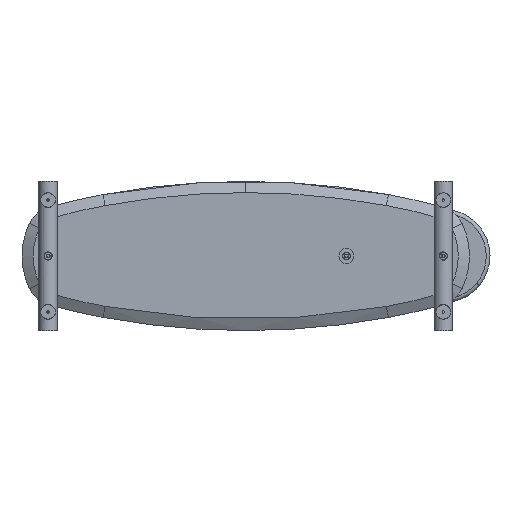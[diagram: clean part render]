
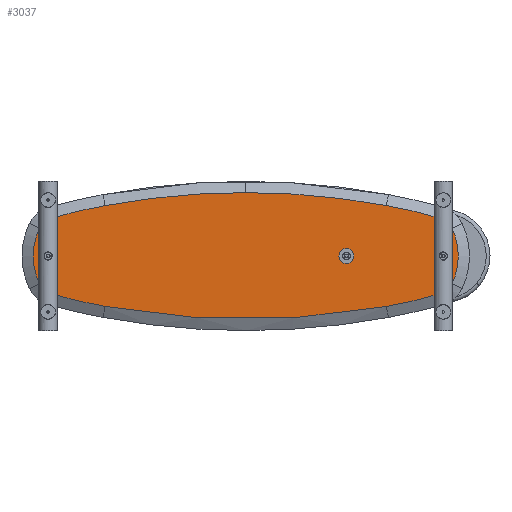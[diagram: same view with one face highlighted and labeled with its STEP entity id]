
A CAD part, front view. The second image highlights one B-rep face of the part: STEP entity #3037.
In plain terms, the highlighted planar face has unit normal (0, -1, 0).
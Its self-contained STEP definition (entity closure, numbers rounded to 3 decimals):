
#147 = EDGE_CURVE ( 'NONE', #2746, #4618, #3333, .T. ) ;
#236 = CIRCLE ( 'NONE', #2231, 50. ) ;
#301 = CARTESIAN_POINT ( 'NONE',  ( 46.866, 0., -74.596 ) ) ;
#343 = CIRCLE ( 'NONE', #3967, 2061.775 ) ;
#505 = AXIS2_PLACEMENT_3D ( 'NONE', #3856, #8598, #6351 ) ;
#520 = VERTEX_POINT ( 'NONE', #4761 ) ;
#697 = CIRCLE ( 'NONE', #1314, 50. ) ;
#717 = ORIENTED_EDGE ( 'NONE', *, *, #6846, .T. ) ;
#835 = DIRECTION ( 'NONE',  ( 0., 0., 1. ) ) ;
#987 = DIRECTION ( 'NONE',  ( 0., 0., 1. ) ) ;
#992 = EDGE_CURVE ( 'NONE', #8031, #6002, #3451, .T. ) ;
#1018 = VERTEX_POINT ( 'NONE', #1585 ) ;
#1198 = DIRECTION ( 'NONE',  ( 0., 0., 1. ) ) ;
#1237 = VERTEX_POINT ( 'NONE', #9211 ) ;
#1314 = AXIS2_PLACEMENT_3D ( 'NONE', #8226, #9116, #987 ) ;
#1425 = EDGE_CURVE ( 'NONE', #520, #6867, #343, .T. ) ;
#1484 = DIRECTION ( 'NONE',  ( 0., -1., 0. ) ) ;
#1585 = CARTESIAN_POINT ( 'NONE',  ( 78.251, 0., -101.157 ) ) ;
#1618 = CARTESIAN_POINT ( 'NONE',  ( 46.866, 0., 74.596 ) ) ;
#1796 = CIRCLE ( 'NONE', #9862, 2061.775 ) ;
#1939 = AXIS2_PLACEMENT_3D ( 'NONE', #8640, #1484, #7925 ) ;
#2020 = DIRECTION ( 'NONE',  ( 0., -1., 0. ) ) ;
#2062 = DIRECTION ( 'NONE',  ( 0., -1., 0. ) ) ;
#2110 = AXIS2_PLACEMENT_3D ( 'NONE', #7962, #7141, #3247 ) ;
#2231 = AXIS2_PLACEMENT_3D ( 'NONE', #2705, #2742, #9065 ) ;
#2447 = ORIENTED_EDGE ( 'NONE', *, *, #6027, .T. ) ;
#2637 = DIRECTION ( 'NONE',  ( 0., -1., 0. ) ) ;
#2705 = CARTESIAN_POINT ( 'NONE',  ( 92.003, 0., 53.085 ) ) ;
#2742 = DIRECTION ( 'NONE',  ( 0., -1., 0. ) ) ;
#2746 = VERTEX_POINT ( 'NONE', #1618 ) ;
#2800 = CIRCLE ( 'NONE', #3646, 1570. ) ;
#2849 = CIRCLE ( 'NONE', #9848, 1570. ) ;
#2968 = ORIENTED_EDGE ( 'NONE', *, *, #3312, .T. ) ;
#3037 = ADVANCED_FACE ( 'NONE', ( #9827 ), #7753, .F. ) ;
#3247 = DIRECTION ( 'NONE',  ( 0., 0., 1. ) ) ;
#3248 = VERTEX_POINT ( 'NONE', #8692 ) ;
#3312 = EDGE_CURVE ( 'NONE', #8131, #1237, #2849, .T. ) ;
#3321 = AXIS2_PLACEMENT_3D ( 'NONE', #7416, #2637, #6641 ) ;
#3333 = CIRCLE ( 'NONE', #505, 173.394 ) ;
#3451 = CIRCLE ( 'NONE', #9190, 50. ) ;
#3646 = AXIS2_PLACEMENT_3D ( 'NONE', #8441, #5969, #1198 ) ;
#3745 = ORIENTED_EDGE ( 'NONE', *, *, #1425, .T. ) ;
#3856 = CARTESIAN_POINT ( 'NONE',  ( 203.394, 0., 0. ) ) ;
#3967 = AXIS2_PLACEMENT_3D ( 'NONE', #4114, #4160, #9723 ) ;
#3969 = ORIENTED_EDGE ( 'NONE', *, *, #5871, .T. ) ;
#4010 = AXIS2_PLACEMENT_3D ( 'NONE', #6872, #2062, #9230 ) ;
#4085 = EDGE_CURVE ( 'NONE', #10116, #3248, #697, .T. ) ;
#4114 = CARTESIAN_POINT ( 'NONE',  ( 600., 0., 1891.775 ) ) ;
#4160 = DIRECTION ( 'NONE',  ( 0., -1., 0. ) ) ;
#4174 = DIRECTION ( 'NONE',  ( 0., -1., 0. ) ) ;
#4210 = EDGE_CURVE ( 'NONE', #3248, #8815, #2800, .T. ) ;
#4283 = ORIENTED_EDGE ( 'NONE', *, *, #4085, .T. ) ;
#4309 = CARTESIAN_POINT ( 'NONE',  ( 977.111, 0., 135.219 ) ) ;
#4423 = ORIENTED_EDGE ( 'NONE', *, *, #9364, .T. ) ;
#4474 = EDGE_CURVE ( 'NONE', #1018, #520, #9547, .T. ) ;
#4515 = DIRECTION ( 'NONE',  ( 0., 0., 1. ) ) ;
#4528 = VERTEX_POINT ( 'NONE', #5134 ) ;
#4545 = AXIS2_PLACEMENT_3D ( 'NONE', #8364, #2020, #4515 ) ;
#4618 = VERTEX_POINT ( 'NONE', #301 ) ;
#4761 = CARTESIAN_POINT ( 'NONE',  ( 222.889, 0., -135.219 ) ) ;
#4857 = ORIENTED_EDGE ( 'NONE', *, *, #4474, .T. ) ;
#5134 = CARTESIAN_POINT ( 'NONE',  ( 600., 0., 170. ) ) ;
#5635 = EDGE_LOOP ( 'NONE', ( #6844, #9819, #4423, #4283, #7421, #7216, #717, #2968, #2447, #7854, #3969, #4857, #3745 ) ) ;
#5715 = CARTESIAN_POINT ( 'NONE',  ( 1153.134, 0., 74.596 ) ) ;
#5746 = CIRCLE ( 'NONE', #4010, 1570. ) ;
#5774 = CIRCLE ( 'NONE', #1939, 173.394 ) ;
#5871 = EDGE_CURVE ( 'NONE', #4618, #1018, #7684, .T. ) ;
#5969 = DIRECTION ( 'NONE',  ( 0., -1., 0. ) ) ;
#6002 = VERTEX_POINT ( 'NONE', #8241 ) ;
#6027 = EDGE_CURVE ( 'NONE', #1237, #2746, #236, .T. ) ;
#6041 = AXIS2_PLACEMENT_3D ( 'NONE', #6913, #7049, #6182 ) ;
#6182 = DIRECTION ( 'NONE',  ( 0., 0., 1. ) ) ;
#6264 = CARTESIAN_POINT ( 'NONE',  ( 1107.997, 0., -53.085 ) ) ;
#6351 = DIRECTION ( 'NONE',  ( 0., 0., 1. ) ) ;
#6413 = CIRCLE ( 'NONE', #4545, 2061.775 ) ;
#6641 = DIRECTION ( 'NONE',  ( 0., 0., 1. ) ) ;
#6794 = DIRECTION ( 'NONE',  ( 0., 0., 1. ) ) ;
#6844 = ORIENTED_EDGE ( 'NONE', *, *, #8922, .T. ) ;
#6846 = EDGE_CURVE ( 'NONE', #4528, #8131, #1796, .T. ) ;
#6867 = VERTEX_POINT ( 'NONE', #9927 ) ;
#6872 = CARTESIAN_POINT ( 'NONE',  ( 689.948, 0., 1408.296 ) ) ;
#6913 = CARTESIAN_POINT ( 'NONE',  ( 0., 0., 0. ) ) ;
#6964 = CARTESIAN_POINT ( 'NONE',  ( 1121.749, 0., -101.157 ) ) ;
#6987 = EDGE_CURVE ( 'NONE', #8815, #4528, #6413, .T. ) ;
#7049 = DIRECTION ( 'NONE',  ( 0., 1., 0. ) ) ;
#7141 = DIRECTION ( 'NONE',  ( 0., -1., 0. ) ) ;
#7216 = ORIENTED_EDGE ( 'NONE', *, *, #6987, .T. ) ;
#7401 = DIRECTION ( 'NONE',  ( 0., 0., 1. ) ) ;
#7416 = CARTESIAN_POINT ( 'NONE',  ( 92.003, 0., -53.085 ) ) ;
#7421 = ORIENTED_EDGE ( 'NONE', *, *, #4210, .T. ) ;
#7532 = CARTESIAN_POINT ( 'NONE',  ( 600., 0., -1891.775 ) ) ;
#7670 = DIRECTION ( 'NONE',  ( 0., -1., 0. ) ) ;
#7684 = CIRCLE ( 'NONE', #3321, 50. ) ;
#7753 = PLANE ( 'NONE',  #6041 ) ;
#7767 = CARTESIAN_POINT ( 'NONE',  ( 222.889, 0., 135.219 ) ) ;
#7854 = ORIENTED_EDGE ( 'NONE', *, *, #147, .T. ) ;
#7925 = DIRECTION ( 'NONE',  ( 0., 0., 1. ) ) ;
#7962 = CARTESIAN_POINT ( 'NONE',  ( 510.052, 0., 1408.296 ) ) ;
#8031 = VERTEX_POINT ( 'NONE', #6964 ) ;
#8131 = VERTEX_POINT ( 'NONE', #7767 ) ;
#8226 = CARTESIAN_POINT ( 'NONE',  ( 1107.997, 0., 53.085 ) ) ;
#8241 = CARTESIAN_POINT ( 'NONE',  ( 1153.134, 0., -74.596 ) ) ;
#8364 = CARTESIAN_POINT ( 'NONE',  ( 600., 0., -1891.775 ) ) ;
#8441 = CARTESIAN_POINT ( 'NONE',  ( 689.948, 0., -1408.296 ) ) ;
#8598 = DIRECTION ( 'NONE',  ( 0., -1., 0. ) ) ;
#8640 = CARTESIAN_POINT ( 'NONE',  ( 996.606, 0., 0. ) ) ;
#8692 = CARTESIAN_POINT ( 'NONE',  ( 1121.749, 0., 101.157 ) ) ;
#8815 = VERTEX_POINT ( 'NONE', #4309 ) ;
#8922 = EDGE_CURVE ( 'NONE', #6867, #8031, #5746, .T. ) ;
#9065 = DIRECTION ( 'NONE',  ( 0., 0., 1. ) ) ;
#9116 = DIRECTION ( 'NONE',  ( 0., -1., 0. ) ) ;
#9190 = AXIS2_PLACEMENT_3D ( 'NONE', #6264, #10258, #835 ) ;
#9211 = CARTESIAN_POINT ( 'NONE',  ( 78.251, 0., 101.157 ) ) ;
#9230 = DIRECTION ( 'NONE',  ( 0., 0., 1. ) ) ;
#9364 = EDGE_CURVE ( 'NONE', #6002, #10116, #5774, .T. ) ;
#9547 = CIRCLE ( 'NONE', #2110, 1570. ) ;
#9700 = CARTESIAN_POINT ( 'NONE',  ( 510.052, 0., -1408.296 ) ) ;
#9723 = DIRECTION ( 'NONE',  ( 0., 0., 1. ) ) ;
#9819 = ORIENTED_EDGE ( 'NONE', *, *, #992, .T. ) ;
#9827 = FACE_OUTER_BOUND ( 'NONE', #5635, .T. ) ;
#9848 = AXIS2_PLACEMENT_3D ( 'NONE', #9700, #4174, #7401 ) ;
#9862 = AXIS2_PLACEMENT_3D ( 'NONE', #7532, #7670, #6794 ) ;
#9927 = CARTESIAN_POINT ( 'NONE',  ( 977.111, 0., -135.219 ) ) ;
#10116 = VERTEX_POINT ( 'NONE', #5715 ) ;
#10258 = DIRECTION ( 'NONE',  ( 0., -1., 0. ) ) ;
